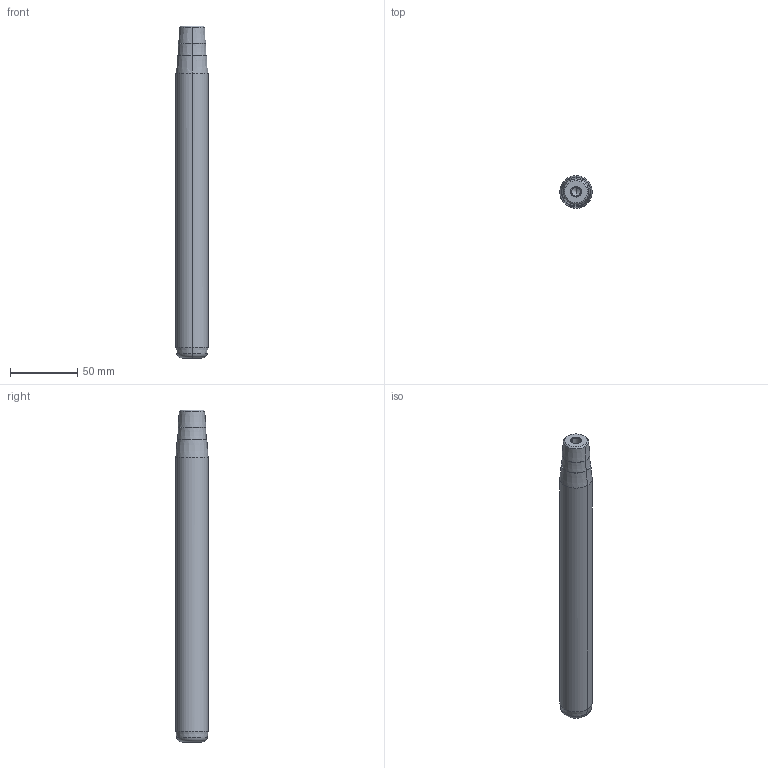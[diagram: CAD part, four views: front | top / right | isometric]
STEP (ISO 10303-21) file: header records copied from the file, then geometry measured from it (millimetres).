
FILE_DESCRIPTION(('CATIA V5 STEP Exchange'),'2;1');
FILE_NAME('C:\Users\Utente\Desktop\IO LAVORO\3D X SITO CF\X SITO\722\722-24x224x247.stp','2021-01-09T08:31:32+00:00',('none'),('none'),'CATIA Version 5 Release 20 GA (IN-10)','CATIA V5 STEP AP203','none');
FILE_SCHEMA(('CONFIG_CONTROL_DESIGN'));
Length unit declared in the file: millimetre
Products named in the file (1): 722-24x224x247
Bounding box: 24 x 24 x 247 mm (x, y, z)
Volume: 105976.1 mm3; surface area: 19947.8 mm2
Topology: 1 solids, 1 shells, 32 faces, 98 edges, 66 vertices
Faces by surface type: cone 22, cylinder 6, plane 2, torus 2
Entity records: 1166 total; most frequent: CARTESIAN_POINT 279, ORIENTED_EDGE 188, DIRECTION 148, EDGE_CURVE 94, AXIS2_PLACEMENT_3D 89, VERTEX_POINT 66, CIRCLE 56, EDGE_LOOP 34
